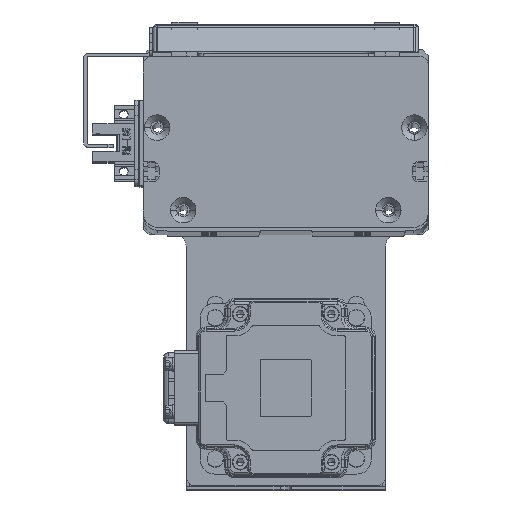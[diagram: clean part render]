
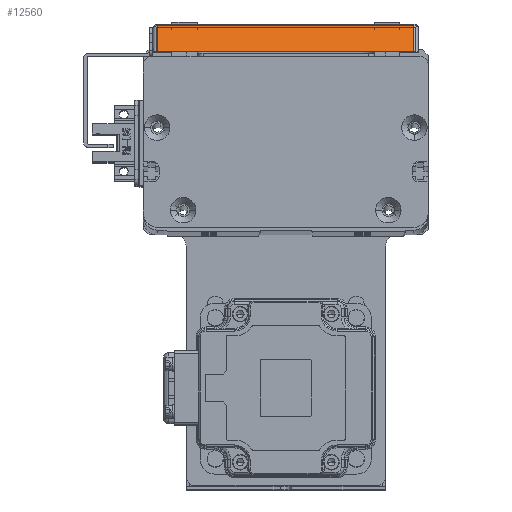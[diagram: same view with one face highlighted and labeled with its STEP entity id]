
A CAD part, top view. The second image highlights one B-rep face of the part: STEP entity #12560.
In plain terms, the highlighted planar face has unit normal (0, 0.707, 0.707) as drawn and (-0.707, 0, -0.707) by its records, which use the part's own axes.
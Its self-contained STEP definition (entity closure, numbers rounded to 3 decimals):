
#2076 = CARTESIAN_POINT ( 'NONE',  ( -66.5, 91.7, 4.1 ) ) ;
#2824 = DIRECTION ( 'NONE',  ( -0.707, 0., -0.707 ) ) ;
#5471 = ORIENTED_EDGE ( 'NONE', *, *, #12849, .T. ) ;
#6723 = VECTOR ( 'NONE', #24284, 1000. ) ;
#10456 = LINE ( 'NONE', #37813, #66874 ) ;
#10598 = DIRECTION ( 'NONE',  ( -0.707, 0., 0.707 ) ) ;
#10799 = VERTEX_POINT ( 'NONE', #41488 ) ;
#12275 = LINE ( 'NONE', #24194, #59326 ) ;
#12560 = ADVANCED_FACE ( 'NONE', ( #60599 ), #29854, .T. ) ;
#12849 = EDGE_CURVE ( 'NONE', #17722, #69803, #25503, .T. ) ;
#17722 = VERTEX_POINT ( 'NONE', #28511 ) ;
#19080 = CARTESIAN_POINT ( 'NONE',  ( -68., 93.4, 5.6 ) ) ;
#20196 = ORIENTED_EDGE ( 'NONE', *, *, #41956, .T. ) ;
#24194 = CARTESIAN_POINT ( 'NONE',  ( -68., 91.7, 5.6 ) ) ;
#24284 = DIRECTION ( 'NONE',  ( 0., 1., 0. ) ) ;
#25503 = LINE ( 'NONE', #29772, #6723 ) ;
#28511 = CARTESIAN_POINT ( 'NONE',  ( -66.5, 1.7, 4.1 ) ) ;
#28836 = EDGE_CURVE ( 'NONE', #10799, #47123, #53114, .T. ) ;
#29075 = ORIENTED_EDGE ( 'NONE', *, *, #55258, .T. ) ;
#29255 = CARTESIAN_POINT ( 'NONE',  ( -57.298, 93.4, -5.102 ) ) ;
#29772 = CARTESIAN_POINT ( 'NONE',  ( -66.5, 93.4, 4.1 ) ) ;
#29854 = PLANE ( 'NONE',  #42209 ) ;
#37813 = CARTESIAN_POINT ( 'NONE',  ( -68., 1.7, 5.6 ) ) ;
#38282 = EDGE_LOOP ( 'NONE', ( #20196, #5471, #29075, #70592 ) ) ;
#41488 = CARTESIAN_POINT ( 'NONE',  ( -57.298, 91.7, -5.102 ) ) ;
#41956 = EDGE_CURVE ( 'NONE', #47123, #17722, #10456, .T. ) ;
#42209 = AXIS2_PLACEMENT_3D ( 'NONE', #19080, #2824, #52086 ) ;
#47123 = VERTEX_POINT ( 'NONE', #61325 ) ;
#51213 = DIRECTION ( 'NONE',  ( 0.707, 0., -0.707 ) ) ;
#52086 = DIRECTION ( 'NONE',  ( -0.707, 0., 0.707 ) ) ;
#53114 = LINE ( 'NONE', #29255, #66794 ) ;
#55258 = EDGE_CURVE ( 'NONE', #69803, #10799, #12275, .T. ) ;
#56778 = DIRECTION ( 'NONE',  ( 0., -1., 0. ) ) ;
#59326 = VECTOR ( 'NONE', #51213, 1000. ) ;
#60599 = FACE_OUTER_BOUND ( 'NONE', #38282, .T. ) ;
#61325 = CARTESIAN_POINT ( 'NONE',  ( -57.298, 1.7, -5.102 ) ) ;
#66794 = VECTOR ( 'NONE', #56778, 1000. ) ;
#66874 = VECTOR ( 'NONE', #10598, 1000. ) ;
#69803 = VERTEX_POINT ( 'NONE', #2076 ) ;
#70592 = ORIENTED_EDGE ( 'NONE', *, *, #28836, .T. ) ;
